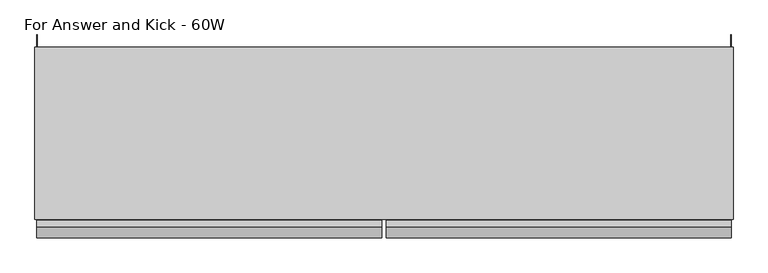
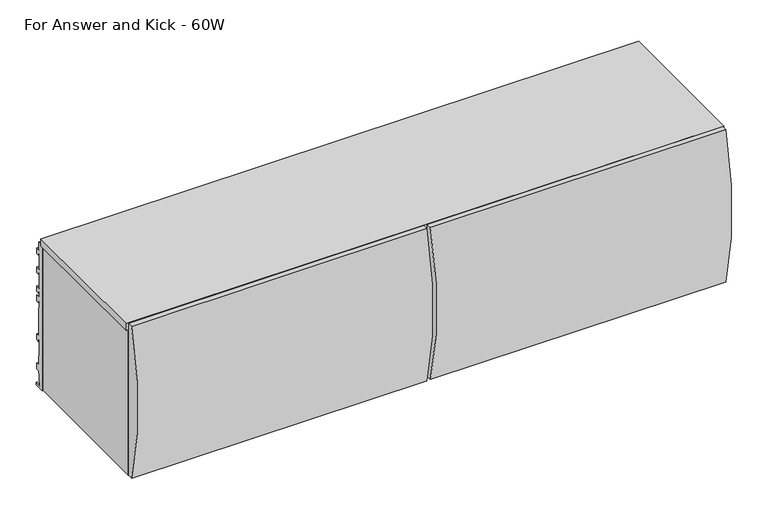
"""IFC4 building model written with IfcOpenShell, lengths in millimetres: furniture geometry, Steelcase - Universal Storage - Over the Case Bin - Radius Front : For Answer and Kick - 60W."""

from ifc_helpers import new_model, si_unit, point, frame, frame_2d, origin, place, context, project, spatial, polyline, circle_curve, trimmed, segment, composite_curve, outline, extrude, source, transform, mapped, element, save


def for_answer_and_kick_60w_fdc0f08b(model_context):
    return source(origin(), model_context, "Body", "SweptSolid", [
        extrude(outline(polyline([(0.0, 1657.096), (15.428165, 1657.096), (15.428165, 1635.9725192), (24.6737648, 1635.9725192), (24.6737648, 1620.2499324), (17.7141651, 1620.2499324), (17.7141651, 1627.4034202), (15.428165, 1627.4034202), (13.3707653, 1623.8398995), (13.3707653, 1584.7332049), (24.4959651, 1584.7332049), (24.4959651, 1569.0106181), (17.7141651, 1569.0106181), (17.7141651, 1576.1734076), (15.428165, 1576.1734076), (13.3707653, 1572.6099624), (13.3707653, 1533.4938907), (24.6737648, 1533.4938907), (24.6737648, 1517.7713038), (17.5768, 1517.7713038), (17.5768, 1524.9340934), (15.4248855, 1524.9340934), (13.3349998, 1521.3219111), (13.3349998, 1508.4166423), (24.6737648, 1508.4166423), (24.6737648, 1492.6940555), (17.5768, 1492.6940555), (17.5768, 1499.856845), (15.4205129, 1499.856845), (13.3933344, 1496.3530466), (13.3933344, 1483.6530466), (15.428165, 1479.2893385), (15.428165, 1403.8551467), (24.6737648, 1403.8551467), (24.6737648, 1388.1325599), (17.7141651, 1388.1325599), (17.7141651, 1395.2982562), (15.428165, 1395.2982562), (13.3306079, 1391.6651808), (13.3306079, 1353.5651808), (15.428165, 1349.9321054), (15.428165, 1325.1000701), (24.6737648, 1325.1000701), (24.6737648, 1309.3774833), (17.7141651, 1309.3774833), (17.7141651, 1316.5328605), (15.428165, 1316.5328605), (15.428165, 1303.5355433), (13.2046809, 1299.684356), (13.2046809, 1282.9679719), (11.2879653, 1282.9679719), (11.2879653, 1271.9303504), (26.4009645, 1271.9303504), (26.4009645, 1265.428), (0.0, 1265.428), (0.0, 1657.096)])), frame((1518.4882, 0.0, 0.0), z_axis=(1.0, 0.0, 0.0), x_axis=(0.0, 1.0, 0.0)), (0.0, 0.0, 1.0), 1.905),
        extrude(outline(polyline([(0.0, 1657.096), (15.428165, 1657.096), (15.428165, 1635.9725192), (24.6737648, 1635.9725192), (24.6737648, 1620.2499324), (17.7141651, 1620.2499324), (17.7141651, 1627.4034202), (15.428165, 1627.4034202), (13.3707653, 1623.8398995), (13.3707653, 1584.7332049), (24.4959651, 1584.7332049), (24.4959651, 1569.0106181), (17.7141651, 1569.0106181), (17.7141651, 1576.1734076), (15.428165, 1576.1734076), (13.3707653, 1572.6099624), (13.3707653, 1533.4938907), (24.6737648, 1533.4938907), (24.6737648, 1517.7713038), (17.5768, 1517.7713038), (17.5768, 1524.9340934), (15.4248855, 1524.9340934), (13.3349998, 1521.3219111), (13.3349998, 1508.4166423), (24.6737648, 1508.4166423), (24.6737648, 1492.6940555), (17.5768, 1492.6940555), (17.5768, 1499.856845), (15.4205129, 1499.856845), (13.3933344, 1496.3530466), (13.3933344, 1483.6530466), (15.428165, 1479.2893385), (15.428165, 1403.8551467), (24.6737648, 1403.8551467), (24.6737648, 1388.1325599), (17.7141651, 1388.1325599), (17.7141651, 1395.2982562), (15.428165, 1395.2982562), (13.3306079, 1391.6651808), (13.3306079, 1353.5651808), (15.428165, 1349.9321054), (15.428165, 1325.1000701), (24.6737648, 1325.1000701), (24.6737648, 1309.3774833), (17.7141651, 1309.3774833), (17.7141651, 1316.5328605), (15.428165, 1316.5328605), (15.428165, 1303.5355433), (13.2046809, 1299.684356), (13.2046809, 1282.9679719), (11.2879653, 1282.9679719), (11.2879653, 1271.9303504), (26.4009645, 1271.9303504), (26.4009645, 1265.428), (0.0, 1265.428), (0.0, 1657.096)])), frame((3.6068, 0.0, 0.0), z_axis=(1.0, 0.0, 0.0), x_axis=(0.0, 1.0, 0.0)), (0.0, 0.0, 1.0), 1.905),
        extrude(outline(composite_curve([segment(polyline([(-393.0769518, 1677.2612846), (-379.476, 1677.2612846), (-379.476, 1266.8226746), (-393.0769518, 1266.8226746)]), True, "CONTINUOUS"), segment(trimmed(circle_curve(frame_2d((352.6331971, 1472.0419796)), 773.4329895), [point((-393.0769518, 1266.8226746))], [point((-393.0769518, 1677.2612846))], False, "CARTESIAN"), True, "CONTINUOUS")], self_intersect=False)), frame((766.572, 0.0, 0.0), z_axis=(1.0, 0.0, 0.0), x_axis=(0.0, 1.0, 0.0)), (0.0, 0.0, 1.0), 752.9983),
        extrude(outline(composite_curve([segment(polyline([(-393.0769518, 1677.2612846), (-379.476, 1677.2612846), (-379.476, 1266.8226746), (-393.0769518, 1266.8226746)]), True, "CONTINUOUS"), segment(trimmed(circle_curve(frame_2d((352.6331971, 1472.0419796)), 773.4329895), [point((-393.0769518, 1266.8226746))], [point((-393.0769518, 1677.2612846))], False, "CARTESIAN"), True, "CONTINUOUS")], self_intersect=False)), frame((4.4448587, 0.0, 0.0), z_axis=(1.0, 0.0, 0.0), x_axis=(0.0, 1.0, 0.0)), (0.0, 0.0, 1.0), 752.9831413),
        extrude(outline(polyline([(1524.0, -377.213238), (0.0, -377.213238), (0.0, 0.0), (1524.0, 0.0), (1524.0, -377.213238)])), frame((0.0, 0.0, 1657.35), z_axis=(0.0, 0.0, 1.0), x_axis=(1.0, 0.0, 0.0)), (0.0, 0.0, 1.0), 19.05),
        extrude(outline(polyline([(15.875, -377.213238), (5.5118, -377.213238), (5.5118, 0.0), (15.875, 0.0), (15.875, -377.213238)])), frame((0.0, 0.0, 1265.428), z_axis=(0.0, 0.0, 1.0), x_axis=(1.0, 0.0, 0.0)), (0.0, 0.0, 1.0), 391.6679457),
        extrude(outline(polyline([(1522.8568665, -377.213238), (1508.125, -377.213238), (1508.125, 0.0), (1522.8568665, 0.0), (1522.8568665, -377.213238)])), frame((0.0, 0.0, 1265.428), z_axis=(0.0, 0.0, 1.0), x_axis=(1.0, 0.0, 0.0)), (0.0, 0.0, 1.0), 391.6679457),
        extrude(outline(polyline([(-35.4584098, 1372.819257), (-27.0763996, 1372.819257), (-27.0763996, 1360.1191601), (-33.4264117, 1360.1191601), (-33.4264117, 1323.1622589), (-27.0763996, 1323.1622589), (-27.0763996, 1265.428), (-35.4584098, 1265.428), (-35.4584098, 1293.054213), (-46.1263996, 1293.054213), (-46.1263996, 1268.1875622), (-59.9694137, 1268.1875622), (-59.9694137, 1294.8575912), (-332.8542818, 1294.8575912), (-332.8542818, 1268.1875622), (-377.3042823, 1268.1875622), (-377.3042823, 1310.7072052), (-35.4584098, 1310.7072052), (-35.4584098, 1372.819257)])), frame((15.875, 0.0, 0.0), z_axis=(1.0, 0.0, 0.0), x_axis=(0.0, 1.0, 0.0)), (0.0, 0.0, 1.0), 1492.25),
    ])


if __name__ == "__main__":
    model = new_model("IFC4")
    model_context = context("Model", 3, world=origin())
    ifc_project = project(units=[si_unit("LENGTHUNIT", "METRE", prefix="MILLI")], contexts=[model_context])
    site = spatial("IfcSite", under=ifc_project)
    building = spatial("IfcBuilding", under=site)
    placement = place(None, origin())
    for_answer_and_kick_60w_shape = for_answer_and_kick_60w_fdc0f08b(model_context)
    element("IfcFurniture", 1, ObjectType="Steelcase - Universal Storage - Over the Case Bin - Radius Front : For Answer and Kick - 60W", at=placement, inside=building, context=model_context, shape_type="MappedRepresentation", body=[
        mapped(for_answer_and_kick_60w_shape, transform((0.0, 0.0, 0.0), x_axis=(1.0, 0.0, 0.0), y_axis=(0.0, 1.0, 0.0), z_axis=(0.0, 0.0, 1.0))),
    ])
    save(model, "model.ifc")
